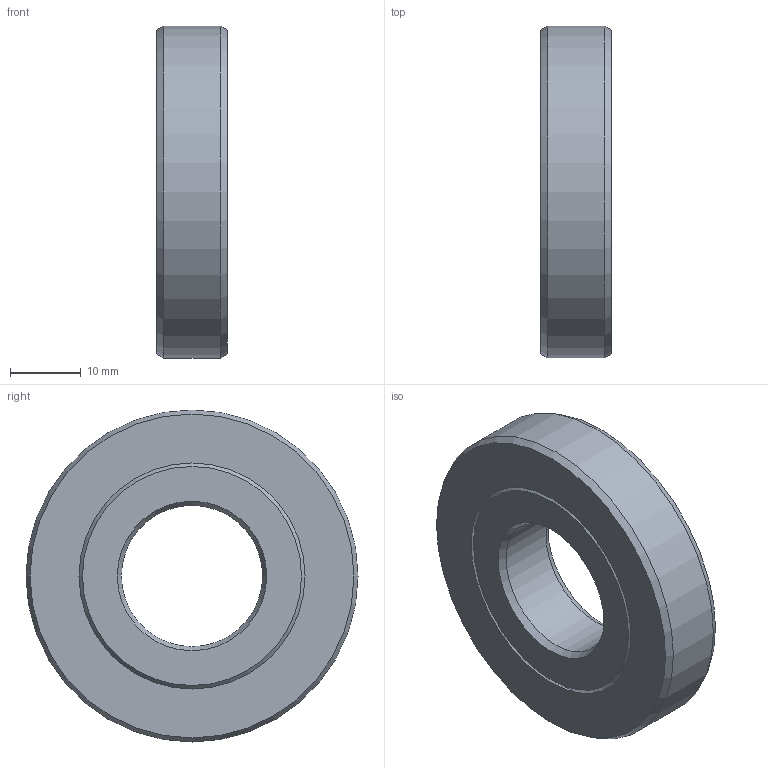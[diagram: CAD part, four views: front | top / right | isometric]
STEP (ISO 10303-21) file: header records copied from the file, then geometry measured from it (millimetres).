
FILE_DESCRIPTION(/* description */ (''),/* implementation_level */ '2;1');
FILE_NAME(/* name */ '301781 SA 20x47x10.stp',/* time_stamp */ '2016-12-16T15:29:43+01:00',/* author */ (''),/* organization */ (''),/* preprocessor_version */ 'ST-DEVELOPER v15',/* originating_system */ 'SIEMENS PLM Software NX 8.5',/* authorisation */ '');
FILE_SCHEMA (('CONFIG_CONTROL_DESIGN'));
Length unit declared in the file: millimetre
Products named in the file (1): ATE0000144_01
Bounding box: 10 x 47 x 47 mm (x, y, z)
Volume: 13424.9 mm3; surface area: 7466.4 mm2
Topology: 2 solids, 2 shells, 18 faces, 37 edges, 23 vertices
Faces by surface type: cone 10, plane 5, cylinder 3
Full cylindrical faces by diameter (mm): 20 x1, 47 x1
Entity records: 492 total; most frequent: DIRECTION 76, CARTESIAN_POINT 74, ORIENTED_EDGE 46, AXIS2_PLACEMENT_3D 38, EDGE_LOOP 33, FACE_BOUND 30, EDGE_CURVE 23, VERTEX_POINT 20
